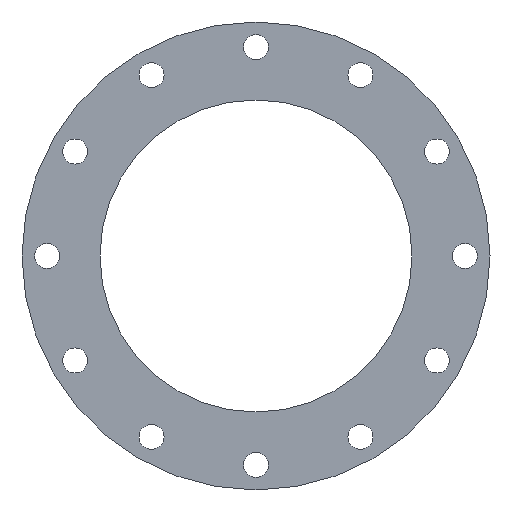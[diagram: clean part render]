
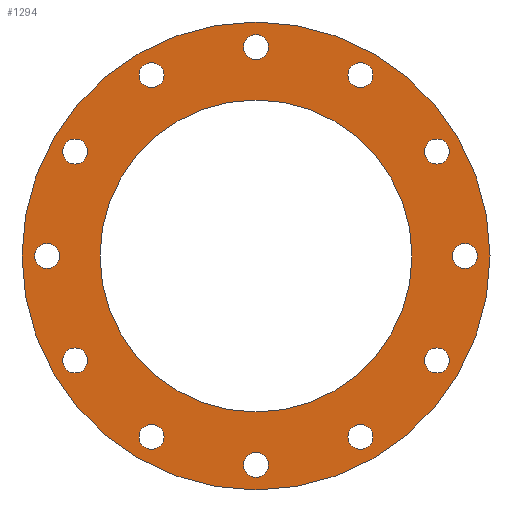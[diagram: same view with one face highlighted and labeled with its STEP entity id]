
A CAD part, left-side view. The second image highlights one B-rep face of the part: STEP entity #1294.
In plain terms, the highlighted planar face has unit normal (-1, 0, 0).
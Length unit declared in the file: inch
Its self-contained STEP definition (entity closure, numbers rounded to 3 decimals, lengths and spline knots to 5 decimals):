
#135=CARTESIAN_POINT('',(-4.0,4.96875,8.60613));
#136=VERTEX_POINT('',#135);
#137=CARTESIAN_POINT('',(-4.0,4.6875,8.11899));
#138=DIRECTION('',(1.0,0.0,0.0));
#139=DIRECTION('',(0.0,-0.5,-0.866));
#140=AXIS2_PLACEMENT_3D('',#137,#138,#139);
#141=CIRCLE('',#140,0.5625);
#142=EDGE_CURVE('',#136,#136,#141,.T.);
#163=CARTESIAN_POINT('',(-4.0,8.60613,4.96875));
#164=VERTEX_POINT('',#163);
#165=CARTESIAN_POINT('',(-4.0,8.11899,4.6875));
#166=DIRECTION('',(1.0,0.0,0.0));
#167=DIRECTION('',(0.0,-0.866,-0.5));
#168=AXIS2_PLACEMENT_3D('',#165,#166,#167);
#169=CIRCLE('',#168,0.5625);
#170=EDGE_CURVE('',#164,#164,#169,.T.);
#191=CARTESIAN_POINT('',(-4.0,9.9375,0.));
#192=VERTEX_POINT('',#191);
#193=CARTESIAN_POINT('',(-4.0,9.375,0.));
#194=DIRECTION('',(1.0,0.0,0.0));
#195=DIRECTION('',(0.0,-1.0,0.0));
#196=AXIS2_PLACEMENT_3D('',#193,#194,#195);
#197=CIRCLE('',#196,0.5625);
#198=EDGE_CURVE('',#192,#192,#197,.T.);
#219=CARTESIAN_POINT('',(-4.0,8.60613,-4.96875));
#220=VERTEX_POINT('',#219);
#221=CARTESIAN_POINT('',(-4.0,8.11899,-4.6875));
#222=DIRECTION('',(1.0,0.0,0.0));
#223=DIRECTION('',(0.0,-0.866,0.5));
#224=AXIS2_PLACEMENT_3D('',#221,#222,#223);
#225=CIRCLE('',#224,0.5625);
#226=EDGE_CURVE('',#220,#220,#225,.T.);
#247=CARTESIAN_POINT('',(-4.0,4.96875,-8.60613));
#248=VERTEX_POINT('',#247);
#249=CARTESIAN_POINT('',(-4.0,4.6875,-8.11899));
#250=DIRECTION('',(1.0,0.0,0.0));
#251=DIRECTION('',(0.0,-0.5,0.866));
#252=AXIS2_PLACEMENT_3D('',#249,#250,#251);
#253=CIRCLE('',#252,0.5625);
#254=EDGE_CURVE('',#248,#248,#253,.T.);
#275=CARTESIAN_POINT('',(-4.0,0.,-9.9375));
#276=VERTEX_POINT('',#275);
#277=CARTESIAN_POINT('',(-4.0,0.,-9.375));
#278=DIRECTION('',(1.0,0.0,0.0));
#279=DIRECTION('',(0.0,0.0,1.0));
#280=AXIS2_PLACEMENT_3D('',#277,#278,#279);
#281=CIRCLE('',#280,0.5625);
#282=EDGE_CURVE('',#276,#276,#281,.T.);
#303=CARTESIAN_POINT('',(-4.0,-4.96875,-8.60613));
#304=VERTEX_POINT('',#303);
#305=CARTESIAN_POINT('',(-4.0,-4.6875,-8.11899));
#306=DIRECTION('',(1.,0.0,0.0));
#307=DIRECTION('',(0.0,0.5,0.866));
#308=AXIS2_PLACEMENT_3D('',#305,#306,#307);
#309=CIRCLE('',#308,0.5625);
#310=EDGE_CURVE('',#304,#304,#309,.T.);
#331=CARTESIAN_POINT('',(-4.0,-8.60613,-4.96875));
#332=VERTEX_POINT('',#331);
#333=CARTESIAN_POINT('',(-4.0,-8.11899,-4.6875));
#334=DIRECTION('',(1.0,0.0,0.0));
#335=DIRECTION('',(0.0,0.866,0.5));
#336=AXIS2_PLACEMENT_3D('',#333,#334,#335);
#337=CIRCLE('',#336,0.5625);
#338=EDGE_CURVE('',#332,#332,#337,.T.);
#359=CARTESIAN_POINT('',(-4.0,-9.9375,0.));
#360=VERTEX_POINT('',#359);
#361=CARTESIAN_POINT('',(-4.0,-9.375,0.));
#362=DIRECTION('',(1.0,0.0,0.0));
#363=DIRECTION('',(0.0,1.0,0.0));
#364=AXIS2_PLACEMENT_3D('',#361,#362,#363);
#365=CIRCLE('',#364,0.5625);
#366=EDGE_CURVE('',#360,#360,#365,.T.);
#387=CARTESIAN_POINT('',(-4.0,-8.60613,4.96875));
#388=VERTEX_POINT('',#387);
#389=CARTESIAN_POINT('',(-4.0,-8.11899,4.6875));
#390=DIRECTION('',(1.,0.0,0.0));
#391=DIRECTION('',(0.0,0.866,-0.5));
#392=AXIS2_PLACEMENT_3D('',#389,#390,#391);
#393=CIRCLE('',#392,0.5625);
#394=EDGE_CURVE('',#388,#388,#393,.T.);
#415=CARTESIAN_POINT('',(-4.0,-4.96875,8.60613));
#416=VERTEX_POINT('',#415);
#417=CARTESIAN_POINT('',(-4.0,-4.6875,8.11899));
#418=DIRECTION('',(1.0,0.0,0.0));
#419=DIRECTION('',(0.0,0.5,-0.866));
#420=AXIS2_PLACEMENT_3D('',#417,#418,#419);
#421=CIRCLE('',#420,0.5625);
#422=EDGE_CURVE('',#416,#416,#421,.T.);
#443=CARTESIAN_POINT('',(-4.0,0.,9.9375));
#444=VERTEX_POINT('',#443);
#445=CARTESIAN_POINT('',(-4.0,0.0,9.375));
#446=DIRECTION('',(1.0,0.0,0.0));
#447=DIRECTION('',(0.0,0.0,-1.0));
#448=AXIS2_PLACEMENT_3D('',#445,#446,#447);
#449=CIRCLE('',#448,0.5625);
#450=EDGE_CURVE('',#444,#444,#449,.T.);
#807=CARTESIAN_POINT('',(-4.,10.5,0.0));
#808=VERTEX_POINT('',#807);
#809=CARTESIAN_POINT('',(-4.,0.0,0.0));
#810=DIRECTION('',(1.0,0.0,0.0));
#811=DIRECTION('',(0.0,1.0,0.0));
#812=AXIS2_PLACEMENT_3D('',#809,#810,#811);
#813=CIRCLE('',#812,10.5);
#814=EDGE_CURVE('',#808,#808,#813,.T.);
#1232=CARTESIAN_POINT('',(-4.0,7.,0.0));
#1233=VERTEX_POINT('',#1232);
#1234=CARTESIAN_POINT('',(-4.0,0.0,0.0));
#1235=DIRECTION('',(1.0,0.0,0.0));
#1236=DIRECTION('',(0.0,1.0,0.0));
#1237=AXIS2_PLACEMENT_3D('',#1234,#1235,#1236);
#1238=CIRCLE('',#1237,7.);
#1239=EDGE_CURVE('',#1233,#1233,#1238,.T.);
#1247=CARTESIAN_POINT('',(-4.0,8.75,0.0));
#1248=DIRECTION('',(-1.0,0.0,0.0));
#1249=DIRECTION('',(0.0,0.0,1.0));
#1250=AXIS2_PLACEMENT_3D('',#1247,#1248,#1249);
#1251=PLANE('',#1250);
#1252=ORIENTED_EDGE('',*,*,#814,.F.);
#1253=EDGE_LOOP('',(#1252));
#1254=FACE_OUTER_BOUND('',#1253,.T.);
#1255=ORIENTED_EDGE('',*,*,#142,.T.);
#1256=EDGE_LOOP('',(#1255));
#1257=FACE_BOUND('',#1256,.T.);
#1258=ORIENTED_EDGE('',*,*,#170,.T.);
#1259=EDGE_LOOP('',(#1258));
#1260=FACE_BOUND('',#1259,.T.);
#1261=ORIENTED_EDGE('',*,*,#198,.T.);
#1262=EDGE_LOOP('',(#1261));
#1263=FACE_BOUND('',#1262,.T.);
#1264=ORIENTED_EDGE('',*,*,#226,.T.);
#1265=EDGE_LOOP('',(#1264));
#1266=FACE_BOUND('',#1265,.T.);
#1267=ORIENTED_EDGE('',*,*,#254,.T.);
#1268=EDGE_LOOP('',(#1267));
#1269=FACE_BOUND('',#1268,.T.);
#1270=ORIENTED_EDGE('',*,*,#282,.T.);
#1271=EDGE_LOOP('',(#1270));
#1272=FACE_BOUND('',#1271,.T.);
#1273=ORIENTED_EDGE('',*,*,#310,.T.);
#1274=EDGE_LOOP('',(#1273));
#1275=FACE_BOUND('',#1274,.T.);
#1276=ORIENTED_EDGE('',*,*,#338,.T.);
#1277=EDGE_LOOP('',(#1276));
#1278=FACE_BOUND('',#1277,.T.);
#1279=ORIENTED_EDGE('',*,*,#366,.T.);
#1280=EDGE_LOOP('',(#1279));
#1281=FACE_BOUND('',#1280,.T.);
#1282=ORIENTED_EDGE('',*,*,#394,.T.);
#1283=EDGE_LOOP('',(#1282));
#1284=FACE_BOUND('',#1283,.T.);
#1285=ORIENTED_EDGE('',*,*,#422,.T.);
#1286=EDGE_LOOP('',(#1285));
#1287=FACE_BOUND('',#1286,.T.);
#1288=ORIENTED_EDGE('',*,*,#450,.T.);
#1289=EDGE_LOOP('',(#1288));
#1290=FACE_BOUND('',#1289,.T.);
#1291=ORIENTED_EDGE('',*,*,#1239,.T.);
#1292=EDGE_LOOP('',(#1291));
#1293=FACE_BOUND('',#1292,.T.);
#1294=ADVANCED_FACE('',(#1254,#1257,#1260,#1263,#1266,#1269,#1272,#1275,#1278,#1281,#1284,#1287,#1290,#1293),#1251,.T.);
